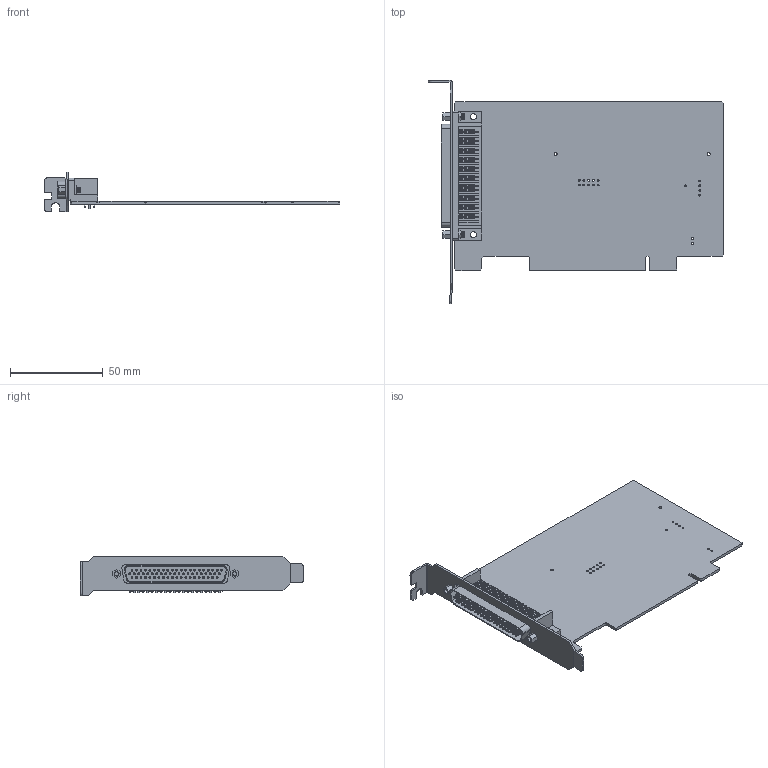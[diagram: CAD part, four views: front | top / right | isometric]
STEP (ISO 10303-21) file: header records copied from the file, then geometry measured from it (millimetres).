
FILE_DESCRIPTION (( 'STEP AP203' ), '1' );
FILE_NAME ('3Dͼֽ MPC1400 V1.0.STEP', '2022-09-30T02:30:27', ( 'Microsoft' ), ( 'Microsoft' ), 'SwSTEP 2.0', 'SolidWorks 2020', '' );
FILE_SCHEMA (( 'CONFIG_CONTROL_DESIGN' ));
Length unit declared in the file: millimetre
Products named in the file (3): MPC1400結啣; 3Dͼֽ MPC1400 V1.0; MPC1400 V1.0
Assembly tree (2 placements, depth 2):
  3Dͼֽ MPC1400 V1.0
    MPC1400 V1.0
    MPC1400結啣
Bounding box: 158.81 x 120.08 x 21.5 mm (x, y, z)
Volume: 1740.6 mm3; surface area: 39560.1 mm2
Topology: 1 solids, 3 shells, 1257 faces, 3683 edges, 2386 vertices
Faces by surface type: plane 813, cylinder 316, sphere 124, bspline 4
Entity records: 41696 total; most frequent: CARTESIAN_POINT 8366, DIRECTION 6908, ORIENTED_EDGE 6236, EDGE_CURVE 3497, VECTOR 2520, LINE 2520, VERTEX_POINT 2324, AXIS2_PLACEMENT_3D 2194
